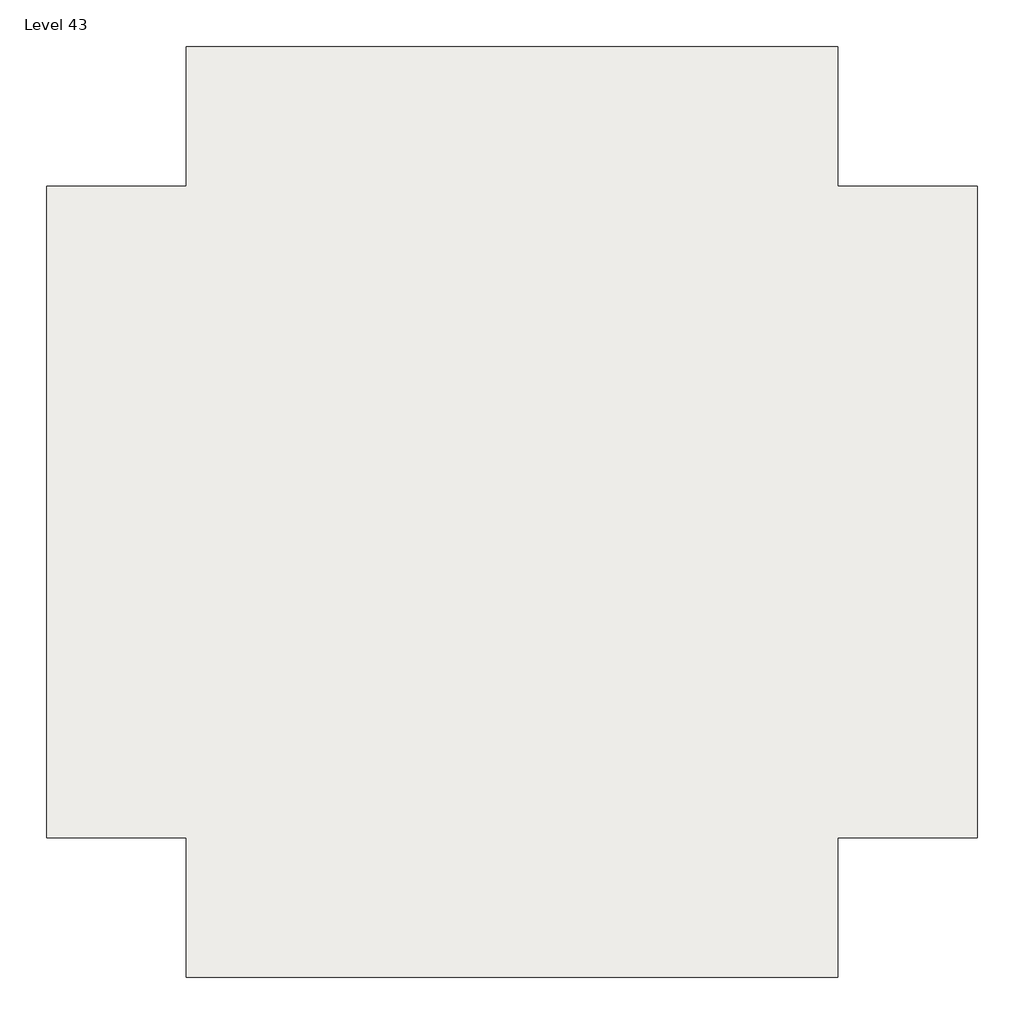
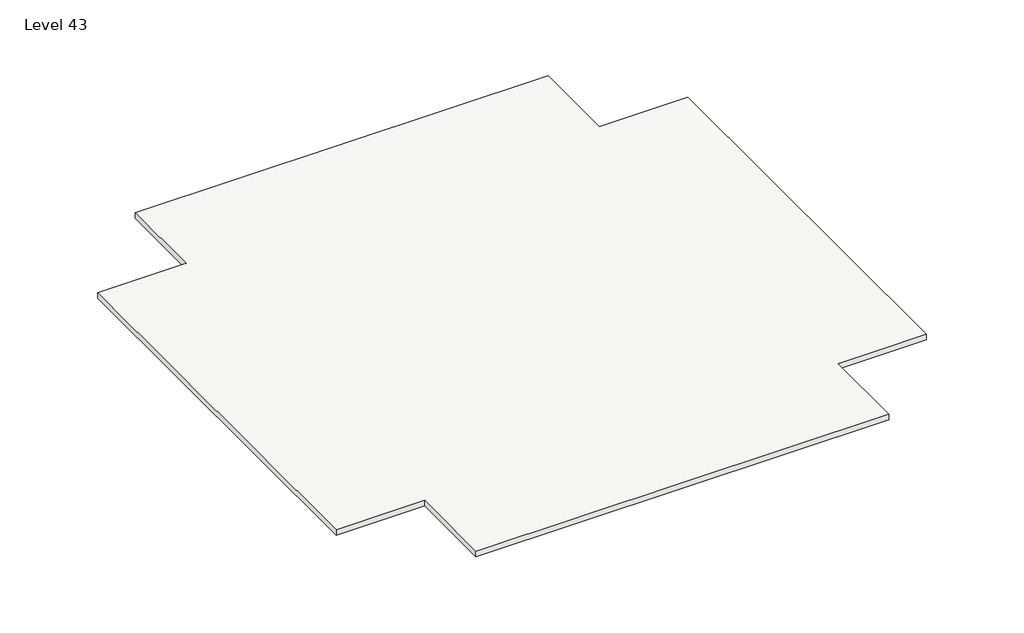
# One storey: 2 slabs.
"""IFC4 building model written with IfcOpenShell, lengths in millimetres."""

import ifcopenshell
import ifcopenshell.guid

model = None  # the IFC model being written
_history = None  # IfcOwnerHistory: only IFC2X3 demands one
_inside = {}  # id of a spatial element -> (the spatial element, [elements in it])
_under = {}  # id of a project, library or spatial element -> (it, [spatial elements below it])
_declared = {}  # id of a project -> (the project, [libraries it declares])
_typed = {}  # id of a type object -> (the type object, [elements of that type])
_made_of = {}  # id of a material, layer set ... -> (it, [elements and type objects made of it])


def new_model(schema):
    """Start an empty IFC model of exactly this schema.

    Asked for "IFC4X3", IfcOpenShell would pick the latest addendum, in which some entities
    have other attributes; the version numbers below select the first issue.
    IFC2X3 requires an IfcOwnerHistory on every rooted entity: one is made here for all.
    """
    global model, _history
    if schema == "IFC4X3":
        model = ifcopenshell.file(schema_version=(4, 3, 0, 0))
    else:
        model = ifcopenshell.file(schema=schema)
    _inside.clear()
    _under.clear()
    _declared.clear()
    _typed.clear()
    _made_of.clear()
    _history = None
    if model.schema == "IFC2X3":
        org = make("IfcOrganization", Name="unknown")
        user = make(
            "IfcPersonAndOrganization",
            ThePerson=make("IfcPerson", FamilyName="unknown"),
            TheOrganization=org,
        )
        app = make(
            "IfcApplication",
            ApplicationDeveloper=org,
            Version="unknown",
            ApplicationFullName="unknown",
            ApplicationIdentifier="unknown",
        )
        _history = make(
            "IfcOwnerHistory",
            OwningUser=user,
            OwningApplication=app,
            ChangeAction="ADDED",
            CreationDate=0,
        )
    return model


def make(cls, **values):
    """One entity of the class cls with the attributes given. An attribute that is None is left unset."""
    return model.create_entity(
        cls, **{name: value for name, value in values.items() if value is not None}
    )


def rooted(cls, **values):
    """An entity with a GlobalId (a new one), such as an element, a storey or a relation."""
    return make(cls, GlobalId=ifcopenshell.guid.new(), OwnerHistory=_history, **values)


def si_unit(unit_type, name, prefix=None):
    """IfcSIUnit, for example si_unit("LENGTHUNIT", "METRE", prefix="MILLI")."""
    return make("IfcSIUnit", UnitType=unit_type, Prefix=prefix, Name=name)


def assignment(units):
    """IfcUnitAssignment: the units of a project."""
    return None if units is None else make("IfcUnitAssignment", Units=units)


def point(xyz):
    """IfcCartesianPoint."""
    return None if xyz is None else make("IfcCartesianPoint", Coordinates=xyz)


def direction(xyz):
    """IfcDirection."""
    return None if xyz is None else make("IfcDirection", DirectionRatios=xyz)


def frame(location, z_axis=None, x_axis=None):
    """IfcAxis2Placement3D, a coordinate frame: its origin and axes. An axis left out is left unset."""
    return make(
        "IfcAxis2Placement3D",
        Location=point(location),
        Axis=direction(z_axis),
        RefDirection=direction(x_axis),
    )


def origin():
    """The frame at (0, 0, 0) with its axes left unset."""
    return frame((0.0, 0.0, 0.0))


def place(relative_to, where):
    """IfcLocalPlacement: puts the frame where relative to a parent placement (None: the world)."""
    return make(
        "IfcLocalPlacement", PlacementRelTo=relative_to, RelativePlacement=where
    )


def context(
    kind, dimensions, precision=None, world=None, true_north=None, identifier=None
):
    """IfcGeometricRepresentationContext, for example the 3D "Model" context."""
    return make(
        "IfcGeometricRepresentationContext",
        ContextIdentifier=identifier,
        ContextType=kind,
        CoordinateSpaceDimension=dimensions,
        Precision=precision,
        WorldCoordinateSystem=world,
        TrueNorth=true_north,
    )


def project(units=None, contexts=None):
    """IfcProject with its units and contexts."""
    return rooted(
        "IfcProject",
        Name="project",
        RepresentationContexts=contexts,
        UnitsInContext=assignment(units),
    )


def spatial(cls, under=None, at=None, **own):
    """A site, building, storey or space (cls), placed at a placement, below another one or the project."""
    s = rooted(cls, ObjectPlacement=at, **own)
    if under is not None:
        _under.setdefault(under.id(), (under, []))[1].append(s)
    return s


def polyline(points):
    """IfcPolyline through the points."""
    return make("IfcPolyline", Points=[point(p) for p in points])


def outline(outer, holes=None, kind="AREA"):
    """IfcArbitraryClosedProfileDef: a profile drawn as a closed curve; with holes, ...WithVoids."""
    if holes is None:
        return make("IfcArbitraryClosedProfileDef", ProfileType=kind, OuterCurve=outer)
    return make(
        "IfcArbitraryProfileDefWithVoids",
        ProfileType=kind,
        OuterCurve=outer,
        InnerCurves=holes,
    )


def extrude(swept, where, along, depth):
    """IfcExtrudedAreaSolid: the profile swept, set in the frame where, extruded along a direction by depth."""
    return make(
        "IfcExtrudedAreaSolid",
        SweptArea=swept,
        Position=where,
        ExtrudedDirection=direction(along),
        Depth=depth,
    )


def shape(context_of_items, identifier, shape_type, items):
    """IfcShapeRepresentation: the items that make up one representation, for example the "Body"."""
    return make(
        "IfcShapeRepresentation",
        ContextOfItems=context_of_items,
        RepresentationIdentifier=identifier,
        RepresentationType=shape_type,
        Items=items,
    )


def made_of(thing, what):
    """Note that an element or type object is made of a material, layer set ...; save() writes the relation."""
    if what is not None:
        _made_of.setdefault(what.id(), (what, []))[1].append(thing)
    return thing


def element(
    cls,
    number,
    at=None,
    inside=None,
    cuts=None,
    type_object=None,
    material=None,
    context=None,
    identifier="Body",
    shape_type=None,
    held_by="IfcProductDefinitionShape",
    body=None,
    shapes=None,
    **own,
):
    """One element of the class cls, such as IfcWall. Its Tag is "e" and its number.

    at: its placement. inside: the storey or other place that contains it. cuts: it is an
    opening in that element (IfcRelVoidsElement). A single representation is given by context,
    identifier, shape_type and body (its items); several are given by shapes. held_by: the class
    of the entity that holds the representations. save() writes the other relations.
    """
    e = rooted(cls, Tag="e%d" % number, ObjectPlacement=at, **own)
    if body is not None:
        shapes = [shape(context, identifier, shape_type, body)]
    if shapes is not None:
        e.Representation = make(held_by, Representations=shapes)
    if inside is not None:
        _inside.setdefault(inside.id(), (inside, []))[1].append(e)
    if cuts is not None:
        rooted(
            "IfcRelVoidsElement", RelatingBuildingElement=cuts, RelatedOpeningElement=e
        )
    if type_object is not None:
        _typed.setdefault(type_object.id(), (type_object, []))[1].append(e)
    return made_of(e, material)


def aggregate(whole, parts):
    """IfcRelAggregates: a whole, such as a stair, and the parts it consists of."""
    return rooted("IfcRelAggregates", RelatingObject=whole, RelatedObjects=parts)


def save(model, path):
    """Write the relations noted so far, then the file.

    IfcRelAggregates (storeys below a building ...), IfcRelContainedInSpatialStructure (elements
    in a storey), IfcRelDefinesByType, IfcRelAssociatesMaterial and IfcRelDeclares: one each for
    every whole, place, type object, material and project.
    """
    for whole, parts in _under.values():
        aggregate(whole, parts)
    for where, things in _inside.values():
        rooted(
            "IfcRelContainedInSpatialStructure",
            RelatedElements=things,
            RelatingStructure=where,
        )
    for kind, things in _typed.values():
        rooted("IfcRelDefinesByType", RelatedObjects=things, RelatingType=kind)
    for what, things in _made_of.values():
        rooted("IfcRelAssociatesMaterial", RelatedObjects=things, RelatingMaterial=what)
    for by, libraries in _declared.values():
        rooted("IfcRelDeclares", RelatingContext=by, RelatedDefinitions=libraries)
    model.write(path)


model = new_model("IFC4")

# Units and contexts
model_context = context("Model", 3, world=origin())
ifc_project = project(units=[si_unit("LENGTHUNIT", "METRE", prefix="MILLI")], contexts=[model_context])

# Site, building, storey
site = spatial("IfcSite", under=ifc_project)
building = spatial("IfcBuilding", under=site)
storey = spatial("IfcBuildingStorey", under=building, Name="Level 43", Elevation=128016.0)

# Slabs
placement = place(None, origin())
element("IfcSlab", 1, ObjectType="Generic - 12\"", at=placement, inside=storey, context=model_context, shape_type="SweptSolid", body=[
    extrude(outline(polyline([(-7150.3629456, 4479.6634547), (-7150.3629456, 9051.6634547), (14185.6370544, 9051.6634547), (14185.6370544, 4479.6634547), (18757.6370544, 4479.6634547), (18757.6370544, -16856.3365453), (14185.6370544, -16856.3365453), (14185.6370544, -21428.3365453), (-7150.3629456, -21428.3365453), (-7150.3629456, -16856.3365453), (-11722.3629456, -16856.3365453), (-11722.3629456, 4479.6634547), (-7150.3629456, 4479.6634547)])), frame((0.0, 0.0, 127711.2), z_axis=(0.0, 0.0, 1.0), x_axis=(1.0, 0.0, 0.0)), (0.0, 0.0, 1.0), 304.8),
])
element("IfcSlab", 2, ObjectType="Generic - 12\"", at=placement, inside=storey, context=model_context, shape_type="SweptSolid", body=[
    extrude(outline(polyline([(-7150.3629456, 4479.6634547), (-7150.3629456, 9051.6634547), (14185.6370544, 9051.6634547), (14185.6370544, 4479.6634547), (18757.6370544, 4479.6634547), (18757.6370544, -16856.3365453), (14185.6370544, -16856.3365453), (14185.6370544, -21428.3365453), (-7150.3629456, -21428.3365453), (-7150.3629456, -16856.3365453), (-11722.3629456, -16856.3365453), (-11722.3629456, 4479.6634547), (-7150.3629456, 4479.6634547)])), frame((0.0, 0.0, 127711.2), z_axis=(0.0, 0.0, 1.0), x_axis=(1.0, 0.0, 0.0)), (0.0, 0.0, 1.0), 304.8),
])

save(model, "model.ifc")
